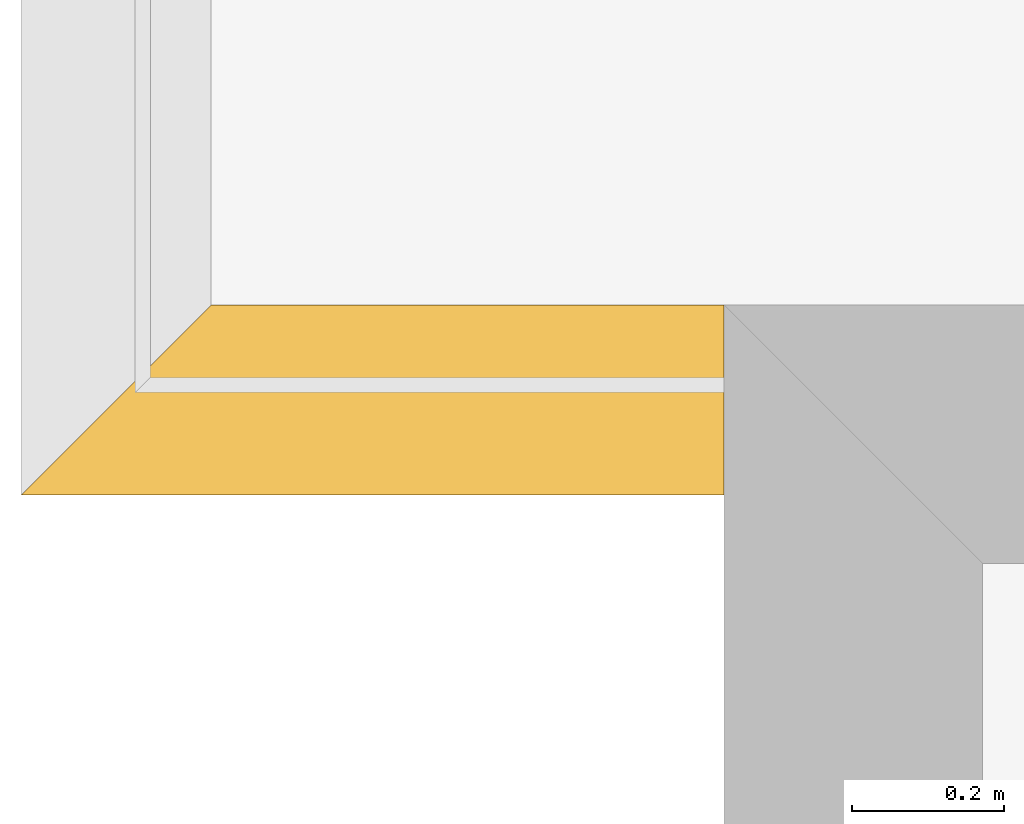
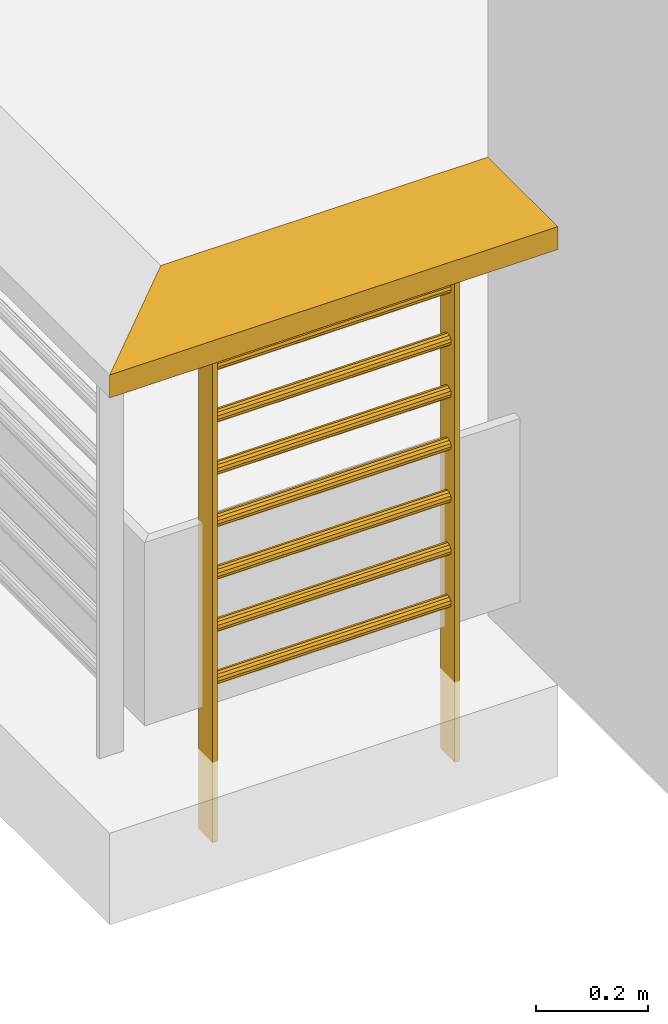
# One storey, part 97 of 164: 1 railing.
"""IFC2X3 building model written with IfcOpenShell, lengths in millimetres."""

from ifc_helpers import new_model, entity, si_unit, converted_unit, derived_unit, money_unit, direction, frame, origin_with_axes, place, context, subcontext, project, spatial, faceted_brep, source, transform, mapped, type_object, element, save


model = new_model("IFC2X3")

# Units and contexts
model_context = context("Model", 3, precision=0.01, world=origin_with_axes(), true_north=direction((0.0, 1.0)))
body_context = subcontext(model_context, "Body", "Model", "MODEL_VIEW")
ifc_project = project(units=[si_unit("LENGTHUNIT", "METRE", prefix="MILLI"), si_unit("AREAUNIT", "SQUARE_METRE"), si_unit("VOLUMEUNIT", "CUBIC_METRE"), converted_unit("PLANEANGLEUNIT", "DEGREE", entity("IfcPlaneAngleMeasure", 0.0174532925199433), si_unit("PLANEANGLEUNIT", "RADIAN"), dimensions=[0, 0, 0, 0, 0, 0, 0]), money_unit("USD"), converted_unit("TIMEUNIT", "Year", entity("IfcTimeMeasure", 31557600.0), si_unit("TIMEUNIT", "SECOND"), dimensions=[0, 0, 1, 0, 0, 0, 0]), si_unit("MASSUNIT", "GRAM", prefix="KILO"), si_unit("THERMODYNAMICTEMPERATUREUNIT", "DEGREE_CELSIUS"), si_unit("LUMINOUSINTENSITYUNIT", "LUMEN"), si_unit("ENERGYUNIT", "JOULE", prefix="MEGA"), derived_unit("THERMALCONDUCTANCEUNIT", [(si_unit("POWERUNIT", "WATT"), 1), (si_unit("LENGTHUNIT", "METRE"), -1), (si_unit("THERMODYNAMICTEMPERATUREUNIT", "KELVIN"), -1)]), derived_unit("SPECIFICHEATCAPACITYUNIT", [(si_unit("ENERGYUNIT", "JOULE"), 1), (si_unit("MASSUNIT", "GRAM", prefix="KILO"), -1), (si_unit("THERMODYNAMICTEMPERATUREUNIT", "KELVIN"), -1)]), derived_unit("MASSDENSITYUNIT", [(si_unit("MASSUNIT", "GRAM", prefix="KILO"), 1), (si_unit("VOLUMEUNIT", "CUBIC_METRE"), -1)])], contexts=[model_context])

# Site, building, storey
site_placement = place(None, origin_with_axes())
site = spatial("IfcSite", under=ifc_project, at=site_placement, Name="Site", CompositionType="ELEMENT")
building_placement = place(site_placement, origin_with_axes())
building = spatial("IfcBuilding", under=site, at=building_placement, Name="Bâtiment", CompositionType="ELEMENT")
storey_placement = place(building_placement, frame((0.0, 0.0, 5750.0), z_axis=(0.0, 0.0, 1.0), x_axis=(1.0, 0.0, 0.0)))
storey = spatial("IfcBuildingStorey", under=building, at=storey_placement, Name="Etage1", CompositionType="ELEMENT", Elevation=5750.0)

# Railing
railing_type = type_object("IfcRailingType", Name="Cadre avec câble 01 20", PredefinedType="NOTDEFINED")
shared_shape = source(origin_with_axes(), body_context, "Body", "Brep", [
    faceted_brep([(-125.0022237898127, -125.0, 950.0), (-800.0000000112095, -125.0, 950.0), (-800.0000000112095, 125.0, 950.0), (125.0022237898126, 125.0, 950.0), (-125.0022237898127, -125.0, 1000.0), (-800.0000000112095, -125.0, 1000.0), (-800.0000000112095, 125.0, 1000.0), (125.0022237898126, 125.0, 1000.0)], [[[0, 1, 2, 3]], [[1, 0, 4, 5]], [[2, 1, 5, 6]], [[3, 2, 6, 7]], [[4, 0, 3, 7]], [[6, 5, 4, 7]]]),
    faceted_brep([(-145.0, -25.0, -176.0), (-145.0, -25.0, 950.0), (-155.0, -25.0, 950.0), (-155.0, -25.0, -176.0), (-145.0, 25.0, -176.0), (-145.0, 25.0, 950.0), (-155.0, 25.0, 950.0), (-155.0, 25.0, -176.0)], [[[0, 1, 2, 3]], [[4, 5, 1, 0]], [[1, 5, 6, 2]], [[3, 2, 6, 7]], [[0, 3, 7, 4]], [[7, 6, 5, 4]]]),
    faceted_brep([(-645.0000000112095, -25.0, -176.0), (-645.0000000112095, -25.0, 950.0), (-655.0000000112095, -25.0, 950.0), (-655.0000000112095, -25.0, -176.0), (-645.0000000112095, 25.0, -176.0), (-645.0000000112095, 25.0, 950.0), (-655.0000000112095, 25.0, 950.0), (-655.0000000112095, 25.0, -176.0)], [[[0, 1, 2, 3]], [[4, 5, 1, 0]], [[1, 5, 6, 2]], [[3, 2, 6, 7]], [[0, 3, 7, 4]], [[7, 6, 5, 4]]]),
    faceted_brep([(-155.0, 10.82531754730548, 156.25), (-645.0000000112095, 10.82531754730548, 156.25), (-645.0000000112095, 12.5, 162.5), (-155.0, 12.5, 162.5), (-155.0, 6.249999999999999, 151.6746824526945), (-645.0000000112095, 6.249999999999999, 151.6746824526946), (-645.0000000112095, 0.0, 150.0), (-645.0000000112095, -6.250000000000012, 151.6746824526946), (-645.0000000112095, -10.82531754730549, 156.2500000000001), (-645.0000000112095, -12.5, 162.5), (-645.0000000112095, -10.82531754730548, 168.75), (-645.0000000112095, -6.249999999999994, 173.3253175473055), (-645.0000000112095, 0.0, 175.0000000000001), (-645.0000000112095, 6.250000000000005, 173.3253175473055), (-645.0000000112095, 10.82531754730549, 168.75), (-155.0, 10.82531754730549, 168.75), (-155.0, 6.250000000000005, 173.3253175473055), (-155.0, 0.0, 175.0), (-155.0, -6.249999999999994, 173.3253175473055), (-155.0, -10.82531754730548, 168.75), (-155.0, -12.5, 162.5), (-155.0, -10.82531754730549, 156.25), (-155.0, -6.250000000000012, 151.6746824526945), (-155.0, 0.0, 150.0)], [[[0, 1, 2, 3]], [[4, 5, 1, 0]], [[1, 5, 6, 7, 8, 9, 10, 11, 12, 13, 14, 2]], [[3, 2, 14, 15]], [[15, 16, 17, 18, 19, 20, 21, 22, 23, 4, 0, 3]], [[23, 6, 5, 4]], [[22, 7, 6, 23]], [[21, 8, 7, 22]], [[20, 9, 8, 21]], [[19, 10, 9, 20]], [[18, 11, 10, 19]], [[17, 12, 11, 18]], [[16, 13, 12, 17]], [[15, 14, 13, 16]]]),
    faceted_brep([(-155.0, 10.82531754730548, 270.5357142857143), (-645.0000000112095, 10.82531754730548, 270.5357142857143), (-645.0000000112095, 12.5, 276.7857142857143), (-155.0, 12.5, 276.7857142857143), (-155.0, 6.249999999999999, 265.9603967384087), (-645.0000000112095, 6.249999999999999, 265.9603967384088), (-645.0000000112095, 0.0, 264.2857142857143), (-645.0000000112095, -6.250000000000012, 265.9603967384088), (-645.0000000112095, -10.82531754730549, 270.5357142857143), (-645.0000000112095, -12.5, 276.7857142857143), (-645.0000000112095, -10.82531754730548, 283.0357142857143), (-645.0000000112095, -6.249999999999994, 287.6110318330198), (-645.0000000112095, 0.0, 289.2857142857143), (-645.0000000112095, 6.250000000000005, 287.6110318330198), (-645.0000000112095, 10.82531754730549, 283.0357142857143), (-155.0, 10.82531754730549, 283.0357142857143), (-155.0, 6.250000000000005, 287.6110318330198), (-155.0, 0.0, 289.2857142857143), (-155.0, -6.249999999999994, 287.6110318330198), (-155.0, -10.82531754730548, 283.0357142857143), (-155.0, -12.5, 276.7857142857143), (-155.0, -10.82531754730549, 270.5357142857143), (-155.0, -6.250000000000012, 265.9603967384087), (-155.0, 0.0, 264.2857142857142)], [[[0, 1, 2, 3]], [[4, 5, 1, 0]], [[1, 5, 6, 7, 8, 9, 10, 11, 12, 13, 14, 2]], [[3, 2, 14, 15]], [[15, 16, 17, 18, 19, 20, 21, 22, 23, 4, 0, 3]], [[23, 6, 5, 4]], [[22, 7, 6, 23]], [[21, 8, 7, 22]], [[20, 9, 8, 21]], [[19, 10, 9, 20]], [[18, 11, 10, 19]], [[17, 12, 11, 18]], [[16, 13, 12, 17]], [[15, 14, 13, 16]]]),
    faceted_brep([(-155.0, 10.82531754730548, 384.8214285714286), (-645.0000000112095, 10.82531754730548, 384.8214285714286), (-645.0000000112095, 12.5, 391.0714285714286), (-155.0, 12.5, 391.0714285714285), (-155.0, 6.249999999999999, 380.2461110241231), (-645.0000000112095, 6.249999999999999, 380.2461110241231), (-645.0000000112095, 0.0, 378.5714285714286), (-645.0000000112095, -6.250000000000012, 380.2461110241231), (-645.0000000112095, -10.82531754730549, 384.8214285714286), (-645.0000000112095, -12.5, 391.0714285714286), (-645.0000000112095, -10.82531754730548, 397.3214285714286), (-645.0000000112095, -6.249999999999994, 401.896746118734), (-645.0000000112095, 0.0, 403.5714285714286), (-645.0000000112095, 6.250000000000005, 401.896746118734), (-645.0000000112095, 10.82531754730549, 397.3214285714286), (-155.0, 10.82531754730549, 397.3214285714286), (-155.0, 6.250000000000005, 401.896746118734), (-155.0, 0.0, 403.5714285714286), (-155.0, -6.249999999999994, 401.896746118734), (-155.0, -10.82531754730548, 397.3214285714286), (-155.0, -12.5, 391.0714285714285), (-155.0, -10.82531754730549, 384.8214285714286), (-155.0, -6.250000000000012, 380.2461110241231), (-155.0, 0.0, 378.5714285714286)], [[[0, 1, 2, 3]], [[4, 5, 1, 0]], [[1, 5, 6, 7, 8, 9, 10, 11, 12, 13, 14, 2]], [[3, 2, 14, 15]], [[15, 16, 17, 18, 19, 20, 21, 22, 23, 4, 0, 3]], [[23, 6, 5, 4]], [[22, 7, 6, 23]], [[21, 8, 7, 22]], [[20, 9, 8, 21]], [[19, 10, 9, 20]], [[18, 11, 10, 19]], [[17, 12, 11, 18]], [[16, 13, 12, 17]], [[15, 14, 13, 16]]]),
    faceted_brep([(-155.0, 10.82531754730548, 499.1071428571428), (-645.0000000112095, 10.82531754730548, 499.1071428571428), (-645.0000000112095, 12.5, 505.3571428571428), (-155.0, 12.5, 505.3571428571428), (-155.0, 6.249999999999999, 494.5318253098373), (-645.0000000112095, 6.249999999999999, 494.5318253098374), (-645.0000000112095, 0.0, 492.8571428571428), (-645.0000000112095, -6.250000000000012, 494.5318253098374), (-645.0000000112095, -10.82531754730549, 499.1071428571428), (-645.0000000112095, -12.5, 505.3571428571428), (-645.0000000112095, -10.82531754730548, 511.6071428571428), (-645.0000000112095, -6.249999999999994, 516.1824604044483), (-645.0000000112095, 0.0, 517.8571428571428), (-645.0000000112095, 6.250000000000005, 516.1824604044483), (-645.0000000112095, 10.82531754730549, 511.6071428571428), (-155.0, 10.82531754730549, 511.6071428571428), (-155.0, 6.250000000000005, 516.1824604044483), (-155.0, 0.0, 517.8571428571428), (-155.0, -6.249999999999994, 516.1824604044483), (-155.0, -10.82531754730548, 511.6071428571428), (-155.0, -12.5, 505.3571428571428), (-155.0, -10.82531754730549, 499.1071428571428), (-155.0, -6.250000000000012, 494.5318253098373), (-155.0, 0.0, 492.8571428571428)], [[[0, 1, 2, 3]], [[4, 5, 1, 0]], [[1, 5, 6, 7, 8, 9, 10, 11, 12, 13, 14, 2]], [[3, 2, 14, 15]], [[15, 16, 17, 18, 19, 20, 21, 22, 23, 4, 0, 3]], [[23, 6, 5, 4]], [[22, 7, 6, 23]], [[21, 8, 7, 22]], [[20, 9, 8, 21]], [[19, 10, 9, 20]], [[18, 11, 10, 19]], [[17, 12, 11, 18]], [[16, 13, 12, 17]], [[15, 14, 13, 16]]]),
    faceted_brep([(-155.0, 10.82531754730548, 613.3928571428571), (-645.0000000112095, 10.82531754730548, 613.3928571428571), (-645.0000000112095, 12.5, 619.6428571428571), (-155.0, 12.5, 619.642857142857), (-155.0, 6.249999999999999, 608.8175395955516), (-645.0000000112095, 6.249999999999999, 608.8175395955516), (-645.0000000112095, 0.0, 607.1428571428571), (-645.0000000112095, -6.250000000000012, 608.8175395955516), (-645.0000000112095, -10.82531754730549, 613.3928571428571), (-645.0000000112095, -12.5, 619.6428571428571), (-645.0000000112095, -10.82531754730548, 625.8928571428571), (-645.0000000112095, -6.249999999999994, 630.4681746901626), (-645.0000000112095, 0.0, 632.1428571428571), (-645.0000000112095, 6.250000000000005, 630.4681746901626), (-645.0000000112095, 10.82531754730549, 625.8928571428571), (-155.0, 10.82531754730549, 625.892857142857), (-155.0, 6.250000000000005, 630.4681746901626), (-155.0, 0.0, 632.1428571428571), (-155.0, -6.249999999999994, 630.4681746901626), (-155.0, -10.82531754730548, 625.892857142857), (-155.0, -12.5, 619.642857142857), (-155.0, -10.82531754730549, 613.3928571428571), (-155.0, -6.250000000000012, 608.8175395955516), (-155.0, 0.0, 607.1428571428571)], [[[0, 1, 2, 3]], [[4, 5, 1, 0]], [[1, 5, 6, 7, 8, 9, 10, 11, 12, 13, 14, 2]], [[3, 2, 14, 15]], [[15, 16, 17, 18, 19, 20, 21, 22, 23, 4, 0, 3]], [[23, 6, 5, 4]], [[22, 7, 6, 23]], [[21, 8, 7, 22]], [[20, 9, 8, 21]], [[19, 10, 9, 20]], [[18, 11, 10, 19]], [[17, 12, 11, 18]], [[16, 13, 12, 17]], [[15, 14, 13, 16]]]),
    faceted_brep([(-155.0, 10.82531754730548, 727.6785714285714), (-645.0000000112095, 10.82531754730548, 727.6785714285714), (-645.0000000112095, 12.5, 733.9285714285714), (-155.0, 12.5, 733.9285714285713), (-155.0, 6.249999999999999, 723.1032538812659), (-645.0000000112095, 6.249999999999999, 723.1032538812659), (-645.0000000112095, 0.0, 721.4285714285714), (-645.0000000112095, -6.250000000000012, 723.1032538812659), (-645.0000000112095, -10.82531754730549, 727.6785714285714), (-645.0000000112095, -12.5, 733.9285714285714), (-645.0000000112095, -10.82531754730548, 740.1785714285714), (-645.0000000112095, -6.249999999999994, 744.7538889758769), (-645.0000000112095, 0.0, 746.4285714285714), (-645.0000000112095, 6.250000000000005, 744.7538889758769), (-645.0000000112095, 10.82531754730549, 740.1785714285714), (-155.0, 10.82531754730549, 740.1785714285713), (-155.0, 6.250000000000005, 744.7538889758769), (-155.0, 0.0, 746.4285714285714), (-155.0, -6.249999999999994, 744.7538889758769), (-155.0, -10.82531754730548, 740.1785714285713), (-155.0, -12.5, 733.9285714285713), (-155.0, -10.82531754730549, 727.6785714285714), (-155.0, -6.250000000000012, 723.1032538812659), (-155.0, 0.0, 721.4285714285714)], [[[0, 1, 2, 3]], [[4, 5, 1, 0]], [[1, 5, 6, 7, 8, 9, 10, 11, 12, 13, 14, 2]], [[3, 2, 14, 15]], [[15, 16, 17, 18, 19, 20, 21, 22, 23, 4, 0, 3]], [[23, 6, 5, 4]], [[22, 7, 6, 23]], [[21, 8, 7, 22]], [[20, 9, 8, 21]], [[19, 10, 9, 20]], [[18, 11, 10, 19]], [[17, 12, 11, 18]], [[16, 13, 12, 17]], [[15, 14, 13, 16]]]),
    faceted_brep([(-155.0, 10.82531754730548, 841.9642857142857), (-645.0000000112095, 10.82531754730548, 841.9642857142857), (-645.0000000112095, 12.5, 848.2142857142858), (-155.0, 12.5, 848.2142857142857), (-155.0, 6.249999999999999, 837.3889681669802), (-645.0000000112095, 6.249999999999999, 837.3889681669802), (-645.0000000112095, 0.0, 835.7142857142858), (-645.0000000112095, -6.250000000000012, 837.3889681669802), (-645.0000000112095, -10.82531754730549, 841.9642857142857), (-645.0000000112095, -12.5, 848.2142857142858), (-645.0000000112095, -10.82531754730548, 854.4642857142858), (-645.0000000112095, -6.249999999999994, 859.0396032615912), (-645.0000000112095, 0.0, 860.7142857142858), (-645.0000000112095, 6.250000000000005, 859.0396032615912), (-645.0000000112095, 10.82531754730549, 854.4642857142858), (-155.0, 10.82531754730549, 854.4642857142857), (-155.0, 6.250000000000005, 859.0396032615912), (-155.0, 0.0, 860.7142857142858), (-155.0, -6.249999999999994, 859.0396032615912), (-155.0, -10.82531754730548, 854.4642857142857), (-155.0, -12.5, 848.2142857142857), (-155.0, -10.82531754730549, 841.9642857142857), (-155.0, -6.250000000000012, 837.3889681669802), (-155.0, 0.0, 835.7142857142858)], [[[0, 1, 2, 3]], [[4, 5, 1, 0]], [[1, 5, 6, 7, 8, 9, 10, 11, 12, 13, 14, 2]], [[3, 2, 14, 15]], [[15, 16, 17, 18, 19, 20, 21, 22, 23, 4, 0, 3]], [[23, 6, 5, 4]], [[22, 7, 6, 23]], [[21, 8, 7, 22]], [[20, 9, 8, 21]], [[19, 10, 9, 20]], [[18, 11, 10, 19]], [[17, 12, 11, 18]], [[16, 13, 12, 17]], [[15, 14, 13, 16]]]),
])
railing_placement = place(storey_placement, frame((2215834.235568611, -626196.2141322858, 0.0), z_axis=(0.0, 0.0, 1.0), x_axis=(-1.0, 0.0, 0.0)))
element("IfcRailing", 1, at=railing_placement, inside=storey, type_object=railing_type, Name="Obj.-002", PredefinedType="NOTDEFINED", context=body_context, shape_type="MappedRepresentation", body=[
    mapped(shared_shape, transform((0.0, 0.0, 0.0))),
])

save(model, "model.ifc")
